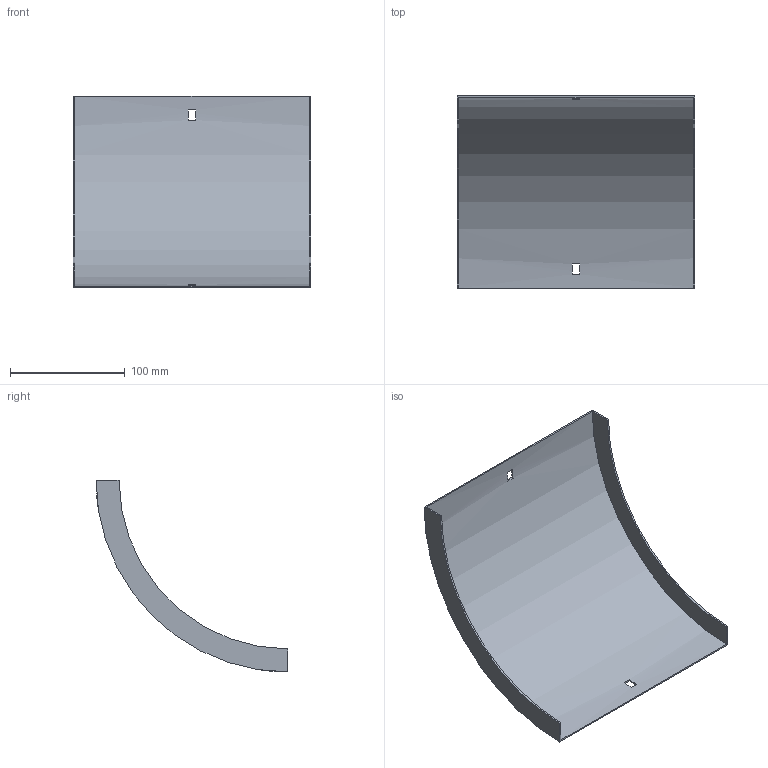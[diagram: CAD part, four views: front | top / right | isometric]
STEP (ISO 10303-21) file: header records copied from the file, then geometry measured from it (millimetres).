
FILE_DESCRIPTION (( 'STEP AP214' ), '1' );
FILE_NAME ('33N1H200.step', '2025-02-21T09:18:36', ( '' ), ( '' ), 'SwSTEP 2.0', 'SolidWorks 2023', '' );
FILE_SCHEMA (( 'AUTOMOTIVE_DESIGN' ));
Length unit declared in the file: millimetre
Products named in the file (1): 33N1H200
Bounding box: 207 x 167 x 167 mm (x, y, z)
Volume: 94530.8 mm3; surface area: 127562.9 mm2
Topology: 1 solids, 1 shells, 18 faces, 48 edges, 32 vertices
Faces by surface type: plane 14, cylinder 4
Entity records: 599 total; most frequent: DIRECTION 102, CARTESIAN_POINT 99, ORIENTED_EDGE 96, EDGE_CURVE 48, AXIS2_PLACEMENT_3D 35, VERTEX_POINT 32, LINE 32, VECTOR 32
